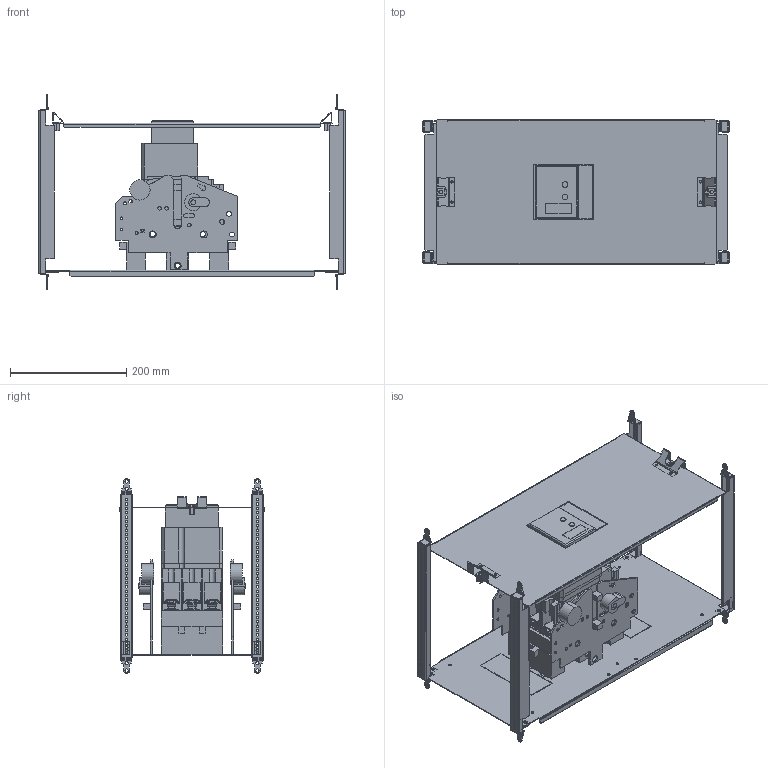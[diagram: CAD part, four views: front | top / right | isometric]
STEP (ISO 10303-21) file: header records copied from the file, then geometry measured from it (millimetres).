
FILE_DESCRIPTION(('CAx-IF Rec.Pracs.---Model Styling and Organization---1.2---2011-12-15','CAx-IF Rec.Pracs.---Geometric and Assembly Validation Properties---4.1---2014-06-16','CAx-IF Rec.Pracs.---PMI Polyline Presentation---2.0---2013-05-24'),'2;1');
FILE_NAME('R5PKIB7H61913 (W-MO).stp','2021-07-29T03:06:33+03:00',(''),(''),'STEP Interface 4.4 by CT CoreTechnologie','3D_Evolution4.4 by CT CoreTechnologie','');
FILE_SCHEMA(('AUTOMOTIVE_DESIGN { 1 0 10303 214 1 1 1 1 }'));
Length unit declared in the file: millimetre
Products named in the file (1): R5PKIB7H61913 (W-MO)
Bounding box: 526 x 248 x 335 mm (x, y, z)
Surface area: 1085688.8 mm2 (no closed solid volume)
Topology: 0 solids, 58 shells, 2221 faces, 6535 edges, 4440 vertices
Faces by surface type: plane 1396, cylinder 758, bspline 67
Entity records: 75860 total; most frequent: CARTESIAN_POINT 14169, ORIENTED_EDGE 13044, DIRECTION 12419, EDGE_CURVE 6525, VECTOR 4903, LINE 4903, VERTEX_POINT 4458, AXIS2_PLACEMENT_3D 3758
